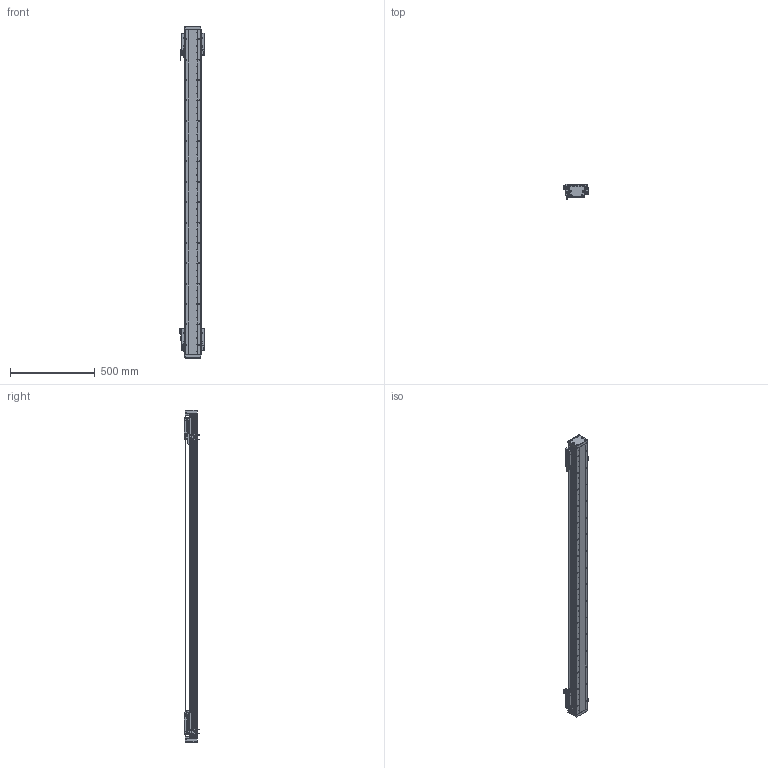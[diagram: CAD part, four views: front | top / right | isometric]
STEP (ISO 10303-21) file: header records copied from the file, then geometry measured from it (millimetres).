
FILE_DESCRIPTION (( 'STEP AP203' ), '1' );
FILE_NAME ('DA-B95-2-B15-T1580-C010-0.2 直线电机.STEP', '2023-05-06T06:32:19', ( '微软用户' ), ( '微软中国' ), 'SwSTEP 2.0', 'SolidWorks 2019', '' );
FILE_SCHEMA (( 'CONFIG_CONTROL_DESIGN' ));
Length unit declared in the file: millimetre
Products named in the file (34): 复件 DA95-B15-YB-B-00 压板B^66245-BU95-V 滚珠滑台; B15 XD-U-02L ｴﾅﾕ､ｳﾟ^DA-A95-B15-T-C010-0.2-N ﾖｱﾏﾟｵ扈銈XD-U-02L; 葩璃 PM-Y45^DA-A95-B15-T-C010-0.2-N 眻盄萇儂; 葩璃 BKM015-W060-C1-TP-DA-0.2^DA-A95-B15-T-C010-0.2-N 眻盄萇儂; 复件 复件 18252-0001-002-00 钢带垫块^DA-A95-B15-T-C010-0.2-N 直线电机; 复件 六角薄螺母 M3^DA-A95-B15-T-C010-0.2-N 直线电机_GB_FASTENER_NUT_STNAB M3-C; IU-BU95-L-00 菁釱_L1920; 66245-BU95-V 幗紩賑怢; 复件 DA95-DK-00 挡块^66245-BU95-V 滚珠滑台; 复件 DKW-GYP-ZJ-00 中间光电感应片^DA-A95-B15-T-C010-0.2-N 直线电机; PM-T45 光电开关^DA-A95-B15-T-C010-0.2-N 直线电机; DA-A95-GYP-00 光电感应片^DA-A95-B15-T-C010-0.2-N 直线电机; 66245-BU95-V-00 珨极趙賑雄怢啣; 葩璃 DA95-B15-DP--B-00 菜えB^66245-BU95-V 幗紩賑怢; 葩璃 BKMA01-W060-TRL^DA-A95-B15-T-C010-0.2-N 眻盄萇儂; 复件 DA95-DB-00  挡板^66245-BU95-V 滚珠滑台; LMDK-2-R001-V5-L02-C1-F00，0.2M 读数头^DA-A95-B15-T-C010-0.2-N 直线电机_DMA-010-0.2; 复件 复件 18252-0001-004-00 钢带端盖^DA-A95-B15-T-C010-0.2-N 直线电机; 复件 纯铜油杯 6x6mm^66245-BU95-V 滚珠滑台; 复件 DKW-KGZ-ZJ-00 中间光电开关支架^DA-A95-B15-T-C010-0.2-N 直线电机; 复件 66245-BU95-HT-V-01 滑动台板^66245-BU95-V-00 一体化滑动台板; 复件 DA95-MFP-01 密封片^66245-BU95-V 滚珠滑台; 复件 DKW-HXJ-JY-00 缓冲橡胶^DA-A95-B15-T-C010-0.2-N 直线电机; DA-B95-2-B15-T1580-C010-0.2 眻盄萇儂; DA95-HXJ-00 缓冲橡胶^DA-A95-B15-T-C010-0.2-N 直线电机; IU-BU95-L 菁釱絳寢; 复件 DA95-HK-GT-00 滑块钢轨^66245-BU95-V-00 一体化滑动台板; 复件 DA95-B15 钢带盖板^DA-A95-B15-T-C010-0.2-N 直线电机; 复件 复件 18252-0001-003-00 钢带拉块^DA-A95-B15-T-C010-0.2-N 直线电机; 葩璃 DA95-GT-T-00^IU-BU95-L 菁釱絳寢_DA95; 复件 DA95-B15-YB-A-00 压板A^66245-BU95-V 滚珠滑台; 葩璃 DA95-B15-DP-A-00 菜えA^66245-BU95-V 幗紩賑怢
Assembly tree (80 placements, depth 4):
  DA-B95-2-B15-T1580-C010-0.2 眻盄萇儂
    IU-BU95-L 菁釱絳寢
      IU-BU95-L-00 菁釱_L1920
      葩璃 DA95-GT-T-00^IU-BU95-L 菁釱絳寢_DA95  x2
    66245-BU95-V 幗紩賑怢
      66245-BU95-V-00 珨极趙賑雄怢啣
        复件 66245-BU95-HT-V-01 滑动台板^66245-BU95-V-00 一体化滑动台板
        复件 DA95-HK-GT-00 滑块钢轨^66245-BU95-V-00 一体化滑动台板  x2
      葩璃 DA95-B15-DP-A-00 菜えA^66245-BU95-V 幗紩賑怢
      复件 DA95-B15-YB-A-00 压板A^66245-BU95-V 滚珠滑台
      复件 DA95-B15-YB-B-00 压板B^66245-BU95-V 滚珠滑台
      复件 DA95-DB-00  挡板^66245-BU95-V 滚珠滑台  x4
      复件 DA95-DK-00 挡块^66245-BU95-V 滚珠滑台  x2
      复件 DA95-MFP-01 密封片^66245-BU95-V 滚珠滑台  x4
      复件 纯铜油杯 6x6mm^66245-BU95-V 滚珠滑台  x2
      葩璃 DA95-B15-DP--B-00 菜えB^66245-BU95-V 幗紩賑怢
    66245-BU95-V 幗紩賑怢
      66245-BU95-V-00 珨极趙賑雄怢啣
        复件 66245-BU95-HT-V-01 滑动台板^66245-BU95-V-00 一体化滑动台板
        复件 DA95-HK-GT-00 滑块钢轨^66245-BU95-V-00 一体化滑动台板  x2
      葩璃 DA95-B15-DP-A-00 菜えA^66245-BU95-V 幗紩賑怢
      复件 DA95-B15-YB-A-00 压板A^66245-BU95-V 滚珠滑台
      复件 DA95-B15-YB-B-00 压板B^66245-BU95-V 滚珠滑台
      复件 DA95-DB-00  挡板^66245-BU95-V 滚珠滑台  x4
      复件 DA95-DK-00 挡块^66245-BU95-V 滚珠滑台  x2
      复件 DA95-MFP-01 密封片^66245-BU95-V 滚珠滑台  x4
      复件 纯铜油杯 6x6mm^66245-BU95-V 滚珠滑台  x2
      葩璃 DA95-B15-DP--B-00 菜えB^66245-BU95-V 幗紩賑怢
    DA-A95-GYP-00 光电感应片^DA-A95-B15-T-C010-0.2-N 直线电机  x2
    LMDK-2-R001-V5-L02-C1-F00，0.2M 读数头^DA-A95-B15-T-C010-0.2-N 直线电机_DMA-010-0.2  x2
    复件 DKW-KGZ-ZJ-00 中间光电开关支架^DA-A95-B15-T-C010-0.2-N 直线电机
    葩璃 PM-Y45^DA-A95-B15-T-C010-0.2-N 眻盄萇儂
    复件 DKW-GYP-ZJ-00 中间光电感应片^DA-A95-B15-T-C010-0.2-N 直线电机
    葩璃 BKM015-W060-C1-TP-DA-0.2^DA-A95-B15-T-C010-0.2-N 眻盄萇儂  x2
    复件 DKW-HXJ-JY-00 缓冲橡胶^DA-A95-B15-T-C010-0.2-N 直线电机  x2
    PM-T45 光电开关^DA-A95-B15-T-C010-0.2-N 直线电机  x4
    B15 XD-U-02L ｴﾅﾕ､ｳﾟ^DA-A95-B15-T-C010-0.2-N ﾖｱﾏﾟｵ扈銈XD-U-02L
    复件 复件 18252-0001-003-00 钢带拉块^DA-A95-B15-T-C010-0.2-N 直线电机  x2
    复件 复件 18252-0001-002-00 钢带垫块^DA-A95-B15-T-C010-0.2-N 直线电机  x2
    复件 复件 18252-0001-004-00 钢带端盖^DA-A95-B15-T-C010-0.2-N 直线电机  x2
    复件 DA95-B15 钢带盖板^DA-A95-B15-T-C010-0.2-N 直线电机
    DA95-HXJ-00 缓冲橡胶^DA-A95-B15-T-C010-0.2-N 直线电机  x4
    葩璃 BKMA01-W060-TRL^DA-A95-B15-T-C010-0.2-N 眻盄萇儂
    复件 六角薄螺母 M3^DA-A95-B15-T-C010-0.2-N 直线电机_GB_FASTENER_NUT_STNAB M3-C  x6
Bounding box: 145.4 x 90.2 x 1956 mm (x, y, z)
Volume: 6658505.7 mm3; surface area: 2178645.6 mm2
Topology: 75 solids, 93 shells, 3944 faces, 10876 edges, 6863 vertices
Faces by surface type: cylinder 1957, plane 1455, cone 464, torus 64, sphere 4
Entity records: 88754 total; most frequent: CARTESIAN_POINT 22008, ORIENTED_EDGE 13110, DIRECTION 12950, EDGE_CURVE 6555, AXIS2_PLACEMENT_3D 4901, VERTEX_POINT 4265, LINE 3148, VECTOR 3148
